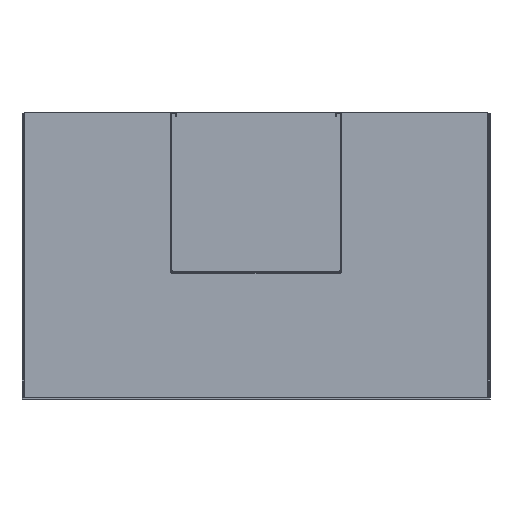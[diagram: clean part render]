
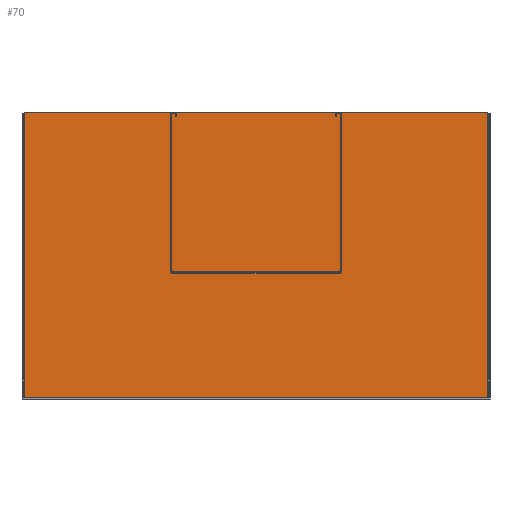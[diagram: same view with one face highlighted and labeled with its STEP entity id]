
A CAD part, top view. The second image highlights one B-rep face of the part: STEP entity #70.
In plain terms, the highlighted planar face has unit normal (0, 0, 1).
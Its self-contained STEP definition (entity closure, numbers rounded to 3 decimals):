
#34=AXIS2_PLACEMENT_3D('Plane Axis2P3D',#31,#32,#33) ;
#31=CARTESIAN_POINT('Axis2P3D Location',(0.,0.,55.)) ;
#36=CARTESIAN_POINT('Line Origine',(0.,273.,55.)) ;
#40=CARTESIAN_POINT('Vertex',(445.,273.,55.)) ;
#42=CARTESIAN_POINT('Vertex',(-445.,273.,55.)) ;
#45=CARTESIAN_POINT('Line Origine',(-445.,0.,55.)) ;
#49=CARTESIAN_POINT('Vertex',(-445.,-273.,55.)) ;
#52=CARTESIAN_POINT('Line Origine',(0.,-273.,55.)) ;
#56=CARTESIAN_POINT('Vertex',(445.,-273.,55.)) ;
#59=CARTESIAN_POINT('Line Origine',(445.,0.,55.)) ;
#32=DIRECTION('Axis2P3D Direction',(0.,0.,1.)) ;
#33=DIRECTION('Axis2P3D XDirection',(1.,0.,0.)) ;
#37=DIRECTION('Vector Direction',(1.,0.,0.)) ;
#46=DIRECTION('Vector Direction',(0.,1.,0.)) ;
#53=DIRECTION('Vector Direction',(-1.,0.,0.)) ;
#60=DIRECTION('Vector Direction',(0.,-1.,0.)) ;
#38=VECTOR('Line Direction',#37,1.) ;
#47=VECTOR('Line Direction',#46,1.) ;
#54=VECTOR('Line Direction',#53,1.) ;
#61=VECTOR('Line Direction',#60,1.) ;
#65=ORIENTED_EDGE('',*,*,#44,.T.) ;
#66=ORIENTED_EDGE('',*,*,#51,.T.) ;
#67=ORIENTED_EDGE('',*,*,#58,.T.) ;
#68=ORIENTED_EDGE('',*,*,#63,.T.) ;
#70=ADVANCED_FACE('Geh\X2\00E4\X0\use',(#69),#35,.T.) ;
#44=EDGE_CURVE('',#41,#43,#39,.F.) ;
#51=EDGE_CURVE('',#43,#50,#48,.F.) ;
#58=EDGE_CURVE('',#50,#57,#55,.F.) ;
#63=EDGE_CURVE('',#57,#41,#62,.F.) ;
#64=EDGE_LOOP('',(#65,#66,#67,#68)) ;
#69=FACE_OUTER_BOUND('',#64,.T.) ;
#39=LINE('Line',#36,#38) ;
#48=LINE('Line',#45,#47) ;
#55=LINE('Line',#52,#54) ;
#62=LINE('Line',#59,#61) ;
#35=PLANE('',#34) ;
#41=VERTEX_POINT('',#40) ;
#43=VERTEX_POINT('',#42) ;
#50=VERTEX_POINT('',#49) ;
#57=VERTEX_POINT('',#56) ;
